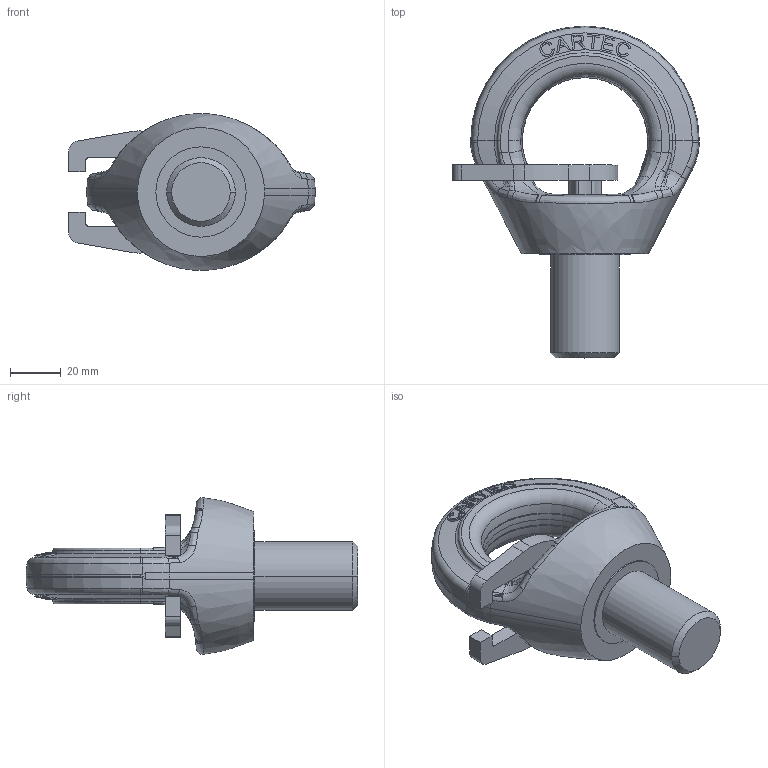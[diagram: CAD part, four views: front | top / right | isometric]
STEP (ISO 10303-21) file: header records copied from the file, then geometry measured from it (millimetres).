
FILE_DESCRIPTION(('STEP AP214'),'1');
FILE_NAME('c807ht27.stp','2017-03-27T13:33:27',('TraceParts'),('TraceParts S.A.'),'Spatial InterOp 3D',' ',' ');
FILE_SCHEMA(('automotive_design'));
Length unit declared in the file: millimetre
Products named in the file (3): c807ht27_1; c807ht27_2; c807ht27_3
Bounding box: 96.93 x 130.43 x 61.46 mm (x, y, z)
Volume: 148605.6 mm3; surface area: 35895.5 mm2
Topology: 3 solids, 3 shells, 452 faces, 1188 edges, 758 vertices
Faces by surface type: cylinder 137, plane 135, bspline 108, torus 52, cone 20
Entity records: 34179 total; most frequent: CARTESIAN_POINT 20007, ORIENTED_EDGE 2368, DIRECTION 2006, EDGE_CURVE 1184, AXIS2_PLACEMENT_3D 798, VERTEX_POINT 758, EDGE_LOOP 476, STYLED_ITEM 455
